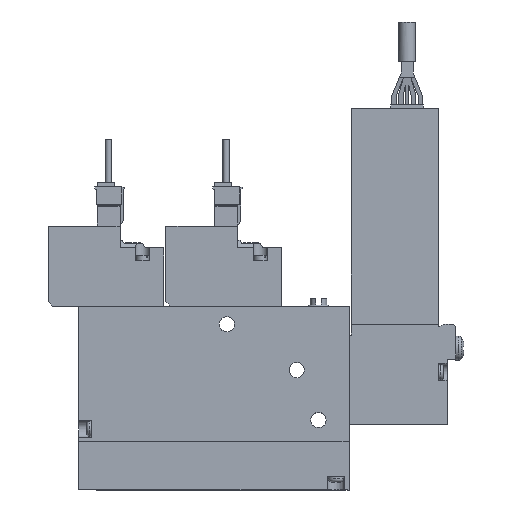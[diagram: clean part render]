
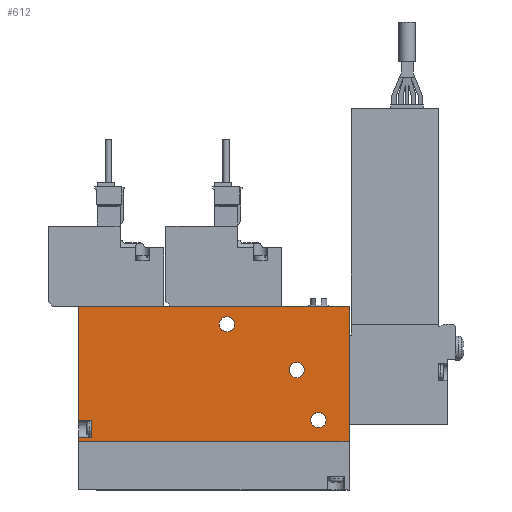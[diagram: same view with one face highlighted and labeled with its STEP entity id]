
A CAD part, top view. The second image highlights one B-rep face of the part: STEP entity #612.
In plain terms, the highlighted planar face has unit normal (0, 0, 1).
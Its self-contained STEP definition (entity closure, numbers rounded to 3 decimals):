
#612=ADVANCED_FACE('',(#1302,#1303,#1304,#1305),#1306,.T.);
#1302=FACE_OUTER_BOUND('',#2099,.T.);
#1303=FACE_BOUND('',#2100,.T.);
#1304=FACE_BOUND('',#2101,.T.);
#1305=FACE_BOUND('',#2102,.T.);
#1306=PLANE('',#2103);
#2099=EDGE_LOOP('',(#4486,#4487,#4488,#4489,#4490,#4491,#4492,#4493));
#2100=EDGE_LOOP('',(#4494));
#2101=EDGE_LOOP('',(#4495));
#2102=EDGE_LOOP('',(#4496));
#2103=AXIS2_PLACEMENT_3D('',#4497,#4498,#4499);
#4486=ORIENTED_EDGE('',*,*,#5669,.T.);
#4487=ORIENTED_EDGE('',*,*,#5736,.F.);
#4488=ORIENTED_EDGE('',*,*,#5703,.T.);
#4489=ORIENTED_EDGE('',*,*,#5730,.T.);
#4490=ORIENTED_EDGE('',*,*,#5665,.T.);
#4491=ORIENTED_EDGE('',*,*,#5735,.T.);
#4492=ORIENTED_EDGE('',*,*,#5747,.T.);
#4493=ORIENTED_EDGE('',*,*,#5750,.T.);
#4494=ORIENTED_EDGE('',*,*,#5697,.F.);
#4495=ORIENTED_EDGE('',*,*,#5751,.F.);
#4496=ORIENTED_EDGE('',*,*,#5720,.F.);
#4497=CARTESIAN_POINT('',(0.0,0.0,5.0));
#4498=DIRECTION('',(0.0,0.0,1.0));
#4499=DIRECTION('',(1.0,0.0,0.0));
#5665=EDGE_CURVE('',#6947,#6945,#6948,.T.);
#5669=EDGE_CURVE('',#6955,#6953,#6956,.T.);
#5697=EDGE_CURVE('',#7002,#7002,#7003,.T.);
#5703=EDGE_CURVE('',#7009,#7011,#7013,.T.);
#5720=EDGE_CURVE('',#7043,#7043,#7044,.T.);
#5730=EDGE_CURVE('',#7011,#6947,#7059,.T.);
#5735=EDGE_CURVE('',#6945,#7063,#7065,.T.);
#5736=EDGE_CURVE('',#7009,#6953,#7066,.T.);
#5747=EDGE_CURVE('',#7063,#7081,#7083,.T.);
#5750=EDGE_CURVE('',#7081,#6955,#7087,.T.);
#5751=EDGE_CURVE('',#7088,#7088,#7089,.T.);
#6945=VERTEX_POINT('',#9119);
#6947=VERTEX_POINT('',#9122);
#6948=LINE('',#9123,#9124);
#6953=VERTEX_POINT('',#9130);
#6955=VERTEX_POINT('',#9133);
#6956=LINE('',#9134,#9135);
#7002=VERTEX_POINT('',#9198);
#7003=CIRCLE('',#9199,1.75);
#7009=VERTEX_POINT('',#9207);
#7011=VERTEX_POINT('',#9210);
#7013=LINE('',#9213,#9214);
#7043=VERTEX_POINT('',#9255);
#7044=CIRCLE('',#9256,1.75);
#7059=LINE('',#9273,#9274);
#7063=VERTEX_POINT('',#9320);
#7065=LINE('',#9323,#9324);
#7066=LINE('',#9325,#9326);
#7081=VERTEX_POINT('',#9345);
#7083=LINE('',#9348,#9349);
#7087=LINE('',#9354,#9355);
#7088=VERTEX_POINT('',#9356);
#7089=CIRCLE('',#9357,1.75);
#9119=CARTESIAN_POINT('',(0.0,0.0,5.0));
#9122=CARTESIAN_POINT('',(0.0,1.0,5.0));
#9123=CARTESIAN_POINT('',(0.0,31.0,5.0));
#9124=VECTOR('',#10591,1.0);
#9130=CARTESIAN_POINT('',(0.0,5.0,5.0));
#9133=CARTESIAN_POINT('',(0.0,31.0,5.0));
#9134=CARTESIAN_POINT('',(0.0,31.0,5.0));
#9135=VECTOR('',#10597,1.0);
#9198=CARTESIAN_POINT('',(56.75,5.0,5.0));
#9199=AXIS2_PLACEMENT_3D('',#10645,#10646,#10647);
#9207=CARTESIAN_POINT('',(3.0,5.0,5.0));
#9210=CARTESIAN_POINT('',(3.0,1.0,5.0));
#9213=CARTESIAN_POINT('',(3.0,5.0,5.0));
#9214=VECTOR('',#10655,1.0);
#9255=CARTESIAN_POINT('',(35.75,27.0,5.0));
#9256=AXIS2_PLACEMENT_3D('',#10682,#10683,#10684);
#9273=CARTESIAN_POINT('',(3.0,1.0,5.0));
#9274=VECTOR('',#10708,1.0);
#9320=CARTESIAN_POINT('',(62.0,0.0,5.0));
#9323=CARTESIAN_POINT('',(0.0,0.0,5.0));
#9324=VECTOR('',#10710,1.0);
#9325=CARTESIAN_POINT('',(3.0,5.0,5.0));
#9326=VECTOR('',#10711,1.0);
#9345=CARTESIAN_POINT('',(62.0,31.0,5.0));
#9348=CARTESIAN_POINT('',(62.0,0.0,5.0));
#9349=VECTOR('',#10732,1.0);
#9354=CARTESIAN_POINT('',(62.0,31.0,5.0));
#9355=VECTOR('',#10737,1.0);
#9356=CARTESIAN_POINT('',(51.75,16.5,5.0));
#9357=AXIS2_PLACEMENT_3D('',#10738,#10739,#10740);
#10591=DIRECTION('',(0.0,-1.0,0.0));
#10597=DIRECTION('',(0.0,-1.0,0.0));
#10645=CARTESIAN_POINT('',(55.0,5.0,5.0));
#10646=DIRECTION('',(0.0,0.0,1.0));
#10647=DIRECTION('',(1.0,0.0,0.0));
#10655=DIRECTION('',(0.0,-1.0,0.0));
#10682=CARTESIAN_POINT('',(34.0,27.0,5.0));
#10683=DIRECTION('',(0.0,0.0,1.0));
#10684=DIRECTION('',(1.0,0.0,0.0));
#10708=DIRECTION('',(-1.0,0.0,0.0));
#10710=DIRECTION('',(1.0,0.0,0.0));
#10711=DIRECTION('',(-1.0,0.0,0.0));
#10732=DIRECTION('',(0.0,1.0,0.0));
#10737=DIRECTION('',(-1.0,0.0,0.0));
#10738=CARTESIAN_POINT('',(50.0,16.5,5.0));
#10739=DIRECTION('',(0.0,0.0,1.0));
#10740=DIRECTION('',(1.0,0.0,0.0));
